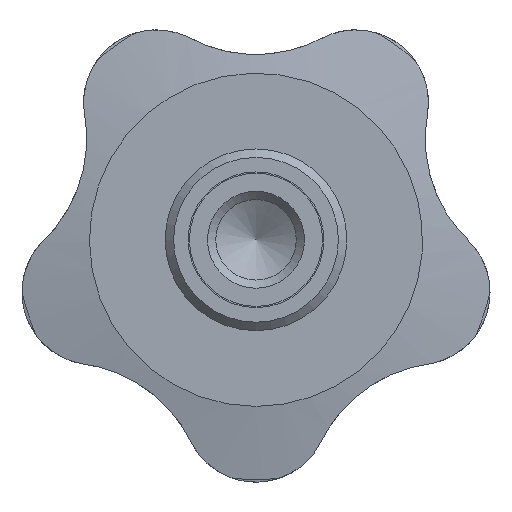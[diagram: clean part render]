
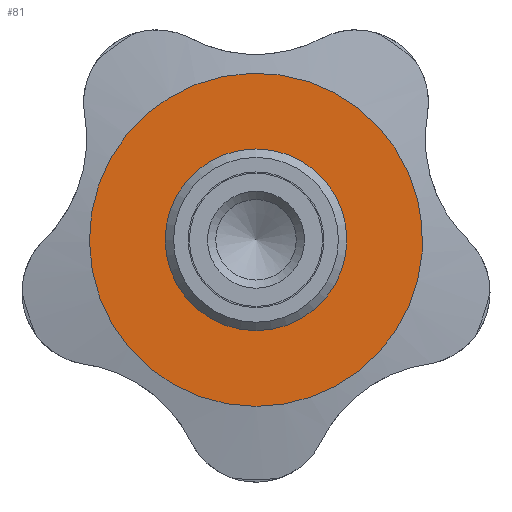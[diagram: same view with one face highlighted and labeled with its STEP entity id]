
A CAD part, front view. The second image highlights one B-rep face of the part: STEP entity #81.
In plain terms, the highlighted planar face has unit normal (0, -1, 0).
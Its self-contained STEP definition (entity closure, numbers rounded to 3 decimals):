
#81 = ADVANCED_FACE( '', ( #125, #126 ), #127, .F. );
#125 = FACE_BOUND( '', #241, .T. );
#126 = FACE_OUTER_BOUND( '', #242, .T. );
#127 = PLANE( '', #243 );
#241 = EDGE_LOOP( '', ( #354 ) );
#242 = EDGE_LOOP( '', ( #355 ) );
#243 = AXIS2_PLACEMENT_3D( '', #356, #357, #358 );
#354 = ORIENTED_EDGE( '', *, *, #583, .F. );
#355 = ORIENTED_EDGE( '', *, *, #584, .T. );
#356 = CARTESIAN_POINT( '', ( 13.75, 14., 0. ) );
#357 = DIRECTION( '', ( 0., 1., 0. ) );
#358 = DIRECTION( '', ( 0., 0., 1. ) );
#583 = EDGE_CURVE( '', #685, #685, #686, .T. );
#584 = EDGE_CURVE( '', #687, #687, #688, .T. );
#685 = VERTEX_POINT( '', #937 );
#686 = CIRCLE( '', #938, 7.5 );
#687 = VERTEX_POINT( '', #939 );
#688 = CIRCLE( '', #940, 13.75 );
#937 = CARTESIAN_POINT( '', ( 0., 14., -7.5 ) );
#938 = AXIS2_PLACEMENT_3D( '', #1340, #1341, #1342 );
#939 = CARTESIAN_POINT( '', ( 0., 14., -13.75 ) );
#940 = AXIS2_PLACEMENT_3D( '', #1343, #1344, #1345 );
#1340 = CARTESIAN_POINT( '', ( 0., 14., 0. ) );
#1341 = DIRECTION( '', ( 0., -1., 0. ) );
#1342 = DIRECTION( '', ( 0., 0., -1. ) );
#1343 = CARTESIAN_POINT( '', ( 0., 14., 0. ) );
#1344 = DIRECTION( '', ( 0., -1., 0. ) );
#1345 = DIRECTION( '', ( 0., 0., -1. ) );
